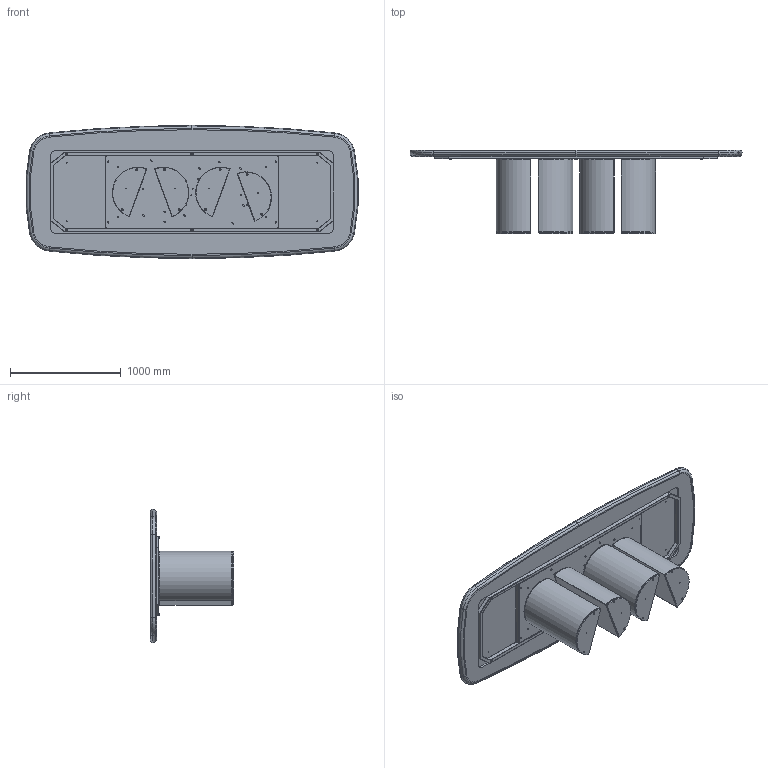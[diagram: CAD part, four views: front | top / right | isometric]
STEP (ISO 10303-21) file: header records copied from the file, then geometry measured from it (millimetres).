
FILE_DESCRIPTION (( 'STEP AP203' ), '1' );
FILE_NAME ('PL244_Plai_300x120_King.STEP', '2024-08-02T06:30:39', ( '' ), ( '' ), 'SwSTEP 2.0', 'SolidWorks 2022', '' );
FILE_SCHEMA (( 'CONFIG_CONTROL_DESIGN' ));
Length unit declared in the file: millimetre
Products named in the file (15): K51-00-PIANO SOLO CERAMICA 297x116.7cm sag; TTAV07-04-TELAIO X TAVOLI PLAI ONDA NOA 300; COLLO TELAIO UNIVERSALE TTAV07 CON FERRAMENTA_MTG TOP LEGNO-MARMO-KING; W51-01-PIANO KING BORDO 300X120 SAGOMATO LACCATO; PLA000000BAS-00-PLAI BASE GREZZA; PL244_Plai_300x120_King; M8xXXmm_M8x55mm; Assieme Basamento PLAI_Basamento per tavoli; TTAV07_01-04-STRUTTURA TAVOLI PLAI ONDA NOA 300; PLA000000ZOC-01-PLAI ZOCCOLO DELLA BASE; rondella M8_8X24; M8xXXmm_hex_M8X60mm; ASSIEME PIANO+CERAMICA 300X120; M8xXXmm_hex_M8X20mm; TTAV07_02-01-VASSOIO TELAIO  PLAI ONDA NOA 300
Assembly tree (27 placements, depth 4):
  PL244_Plai_300x120_King
    COLLO TELAIO UNIVERSALE TTAV07 CON FERRAMENTA_MTG TOP LEGNO-MARMO-KING
      TTAV07-04-TELAIO X TAVOLI PLAI ONDA NOA 300
        TTAV07_01-04-STRUTTURA TAVOLI PLAI ONDA NOA 300
        TTAV07_02-01-VASSOIO TELAIO  PLAI ONDA NOA 300
      rondella M8_8X24  x6
      M8xXXmm_M8x55mm  x6
    Assieme Basamento PLAI_Basamento per tavoli  x4
      PLA000000BAS-00-PLAI BASE GREZZA
      PLA000000ZOC-01-PLAI ZOCCOLO DELLA BASE
      M8xXXmm_hex_M8X60mm
      M8xXXmm_hex_M8X20mm
    ASSIEME PIANO+CERAMICA 300X120
      W51-01-PIANO KING BORDO 300X120 SAGOMATO LACCATO
      K51-00-PIANO SOLO CERAMICA 297x116.7cm sag
Bounding box: 2991.72 x 750 x 1200 mm (x, y, z)
Volume: 163177379.5 mm3; surface area: 25407563.4 mm2
Topology: 44 solids, 44 shells, 1299 faces, 3022 edges, 1775 vertices
Faces by surface type: plane 520, cylinder 453, cone 172, torus 138, sphere 16
Entity records: 22682 total; most frequent: DIRECTION 3867, CARTESIAN_POINT 3574, ORIENTED_EDGE 3376, EDGE_CURVE 1688, AXIS2_PLACEMENT_3D 1482, VERTEX_POINT 1039, LINE 903, VECTOR 903
